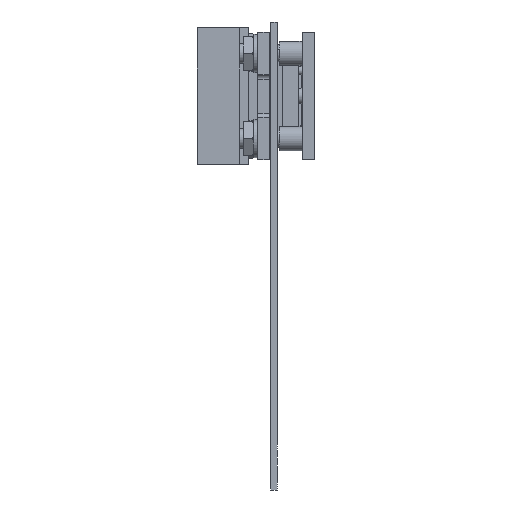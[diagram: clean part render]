
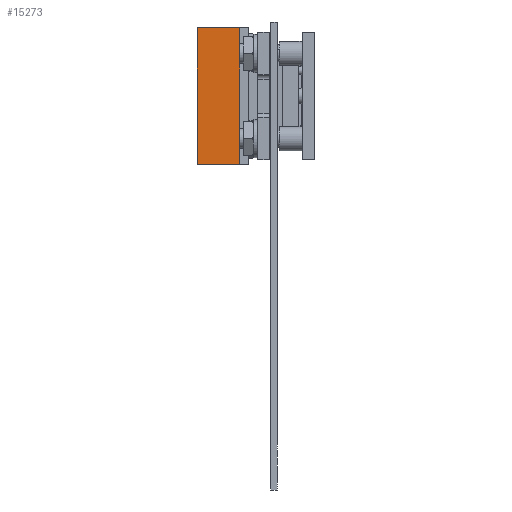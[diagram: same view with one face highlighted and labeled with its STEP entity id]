
A CAD part, left-side view. The second image highlights one B-rep face of the part: STEP entity #15273.
In plain terms, the highlighted planar face has unit normal (-1, 0, 0).
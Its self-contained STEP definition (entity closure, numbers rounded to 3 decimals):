
#4586 = VERTEX_POINT ( 'NONE', #33093 ) ;
#6552 = DIRECTION ( 'NONE',  ( 0., 0., 1. ) ) ;
#9582 = VERTEX_POINT ( 'NONE', #52609 ) ;
#9945 = ORIENTED_EDGE ( 'NONE', *, *, #58944, .F. ) ;
#11618 = ORIENTED_EDGE ( 'NONE', *, *, #54068, .F. ) ;
#11757 = AXIS2_PLACEMENT_3D ( 'NONE', #15859, #26768, #64595 ) ;
#12136 = DIRECTION ( 'NONE',  ( 0., -1., 0. ) ) ;
#15273 = ADVANCED_FACE ( 'NONE', ( #51331 ), #48281, .F. ) ;
#15456 = ORIENTED_EDGE ( 'NONE', *, *, #58340, .F. ) ;
#15859 = CARTESIAN_POINT ( 'NONE',  ( -32.6, 2.2, 16. ) ) ;
#16132 = LINE ( 'NONE', #38603, #44958 ) ;
#16849 = EDGE_CURVE ( 'NONE', #21910, #61095, #42383, .T. ) ;
#17979 = VECTOR ( 'NONE', #6552, 1000. ) ;
#21910 = VERTEX_POINT ( 'NONE', #61547 ) ;
#22976 = CARTESIAN_POINT ( 'NONE',  ( -32.6, 12.18, -16. ) ) ;
#23051 = CARTESIAN_POINT ( 'NONE',  ( -32.6, 2.2, 16. ) ) ;
#26768 = DIRECTION ( 'NONE',  ( 1., 0., 0. ) ) ;
#28227 = LINE ( 'NONE', #23051, #69690 ) ;
#32363 = LINE ( 'NONE', #22976, #17979 ) ;
#32866 = CARTESIAN_POINT ( 'NONE',  ( -32.6, 2.2, -16. ) ) ;
#33093 = CARTESIAN_POINT ( 'NONE',  ( -32.6, 2.2, 16. ) ) ;
#37740 = DIRECTION ( 'NONE',  ( 0., 0., -1. ) ) ;
#38603 = CARTESIAN_POINT ( 'NONE',  ( -32.6, 2.2, 16. ) ) ;
#42383 = LINE ( 'NONE', #49784, #55068 ) ;
#44958 = VECTOR ( 'NONE', #37740, 1000. ) ;
#48281 = PLANE ( 'NONE',  #11757 ) ;
#49040 = DIRECTION ( 'NONE',  ( 0., -1., 0. ) ) ;
#49784 = CARTESIAN_POINT ( 'NONE',  ( -32.6, 2.2, -16. ) ) ;
#51331 = FACE_OUTER_BOUND ( 'NONE', #55255, .T. ) ;
#52609 = CARTESIAN_POINT ( 'NONE',  ( -32.6, 12.18, 16. ) ) ;
#54068 = EDGE_CURVE ( 'NONE', #4586, #61095, #16132, .T. ) ;
#55068 = VECTOR ( 'NONE', #49040, 1000. ) ;
#55255 = EDGE_LOOP ( 'NONE', ( #61566, #11618, #15456, #9945 ) ) ;
#58340 = EDGE_CURVE ( 'NONE', #9582, #4586, #28227, .T. ) ;
#58944 = EDGE_CURVE ( 'NONE', #21910, #9582, #32363, .T. ) ;
#61095 = VERTEX_POINT ( 'NONE', #32866 ) ;
#61547 = CARTESIAN_POINT ( 'NONE',  ( -32.6, 12.18, -16. ) ) ;
#61566 = ORIENTED_EDGE ( 'NONE', *, *, #16849, .T. ) ;
#64595 = DIRECTION ( 'NONE',  ( 0., 0., -1. ) ) ;
#69690 = VECTOR ( 'NONE', #12136, 1000. ) ;
